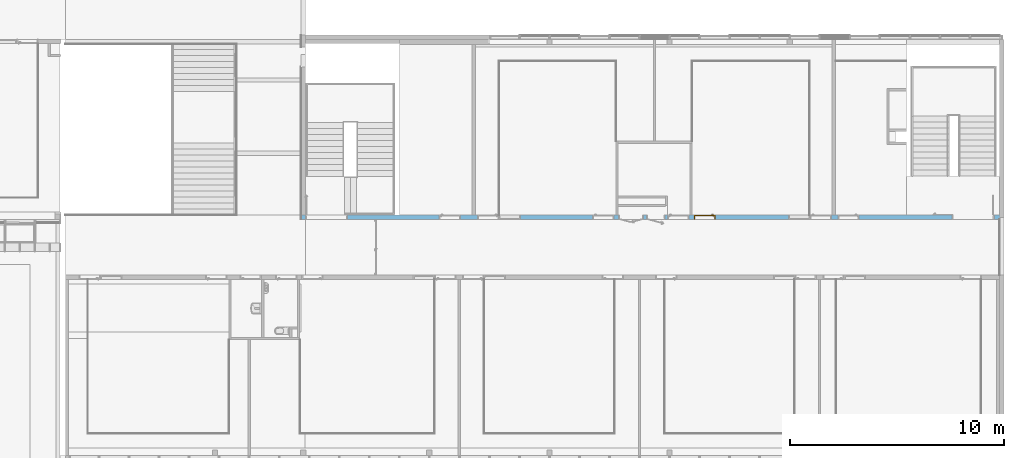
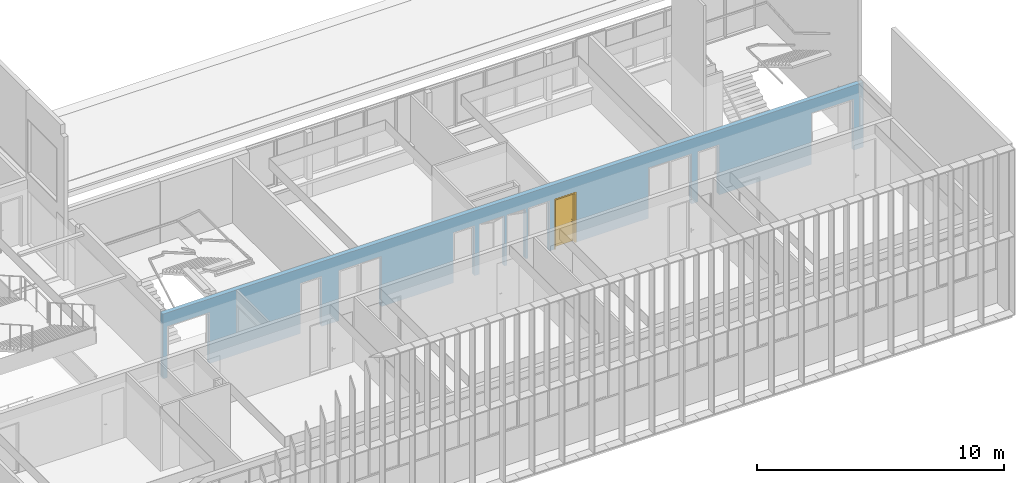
# One storey, part 82 of 106: 1 door, 13 openings, plus 1 element that does not belong to this part.
"""IFC2X3 building model written with IfcOpenShell, lengths in centimetres."""

from ifc_helpers import new_model, entity, si_unit, converted_unit, derived_unit, direction, frame, frame_2d, origin, place, context, subcontext, project, spatial, polyline, rectangle, extrude, clip, bounded_halfspace, faceted_brep, source, transform, mapped, material, material_list, layer, layer_set, layer_usage, type_object, type_shapes, element, fill, save


model = new_model("IFC2X3")

# Units and contexts
model_context = context("Model", 3, precision=0.001, world=origin(), true_north=direction((6.12303176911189e-17, 1.0)))
body_context = subcontext(model_context, "Body", "Model", "MODEL_VIEW")
ifc_project = project(units=[si_unit("LENGTHUNIT", "METRE", prefix="CENTI"), si_unit("AREAUNIT", "SQUARE_METRE"), si_unit("VOLUMEUNIT", "CUBIC_METRE"), converted_unit("PLANEANGLEUNIT", "DEGREE", entity("IfcRatioMeasure", 0.0174532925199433), si_unit("PLANEANGLEUNIT", "RADIAN"), dimensions=[0, 0, 0, 0, 0, 0, 0]), si_unit("MASSUNIT", "GRAM", prefix="KILO"), derived_unit("MASSDENSITYUNIT", [(si_unit("MASSUNIT", "GRAM", prefix="KILO"), 1), (si_unit("LENGTHUNIT", "METRE"), -3)]), si_unit("TIMEUNIT", "SECOND"), si_unit("FREQUENCYUNIT", "HERTZ"), si_unit("THERMODYNAMICTEMPERATUREUNIT", "DEGREE_CELSIUS"), derived_unit("THERMALTRANSMITTANCEUNIT", [(si_unit("MASSUNIT", "GRAM", prefix="KILO"), 1), (si_unit("THERMODYNAMICTEMPERATUREUNIT", "KELVIN"), -1), (si_unit("TIMEUNIT", "SECOND"), -3)]), derived_unit("VOLUMETRICFLOWRATEUNIT", [(si_unit("LENGTHUNIT", "METRE"), 3), (si_unit("TIMEUNIT", "SECOND"), -1)]), si_unit("ELECTRICCURRENTUNIT", "AMPERE"), si_unit("ELECTRICVOLTAGEUNIT", "VOLT"), si_unit("POWERUNIT", "WATT"), si_unit("FORCEUNIT", "NEWTON", prefix="KILO"), si_unit("ILLUMINANCEUNIT", "LUX"), si_unit("LUMINOUSFLUXUNIT", "LUMEN"), si_unit("LUMINOUSINTENSITYUNIT", "CANDELA"), derived_unit("USERDEFINED", [(si_unit("MASSUNIT", "GRAM", prefix="KILO"), -1), (si_unit("LENGTHUNIT", "METRE"), -2), (si_unit("TIMEUNIT", "SECOND"), 3), (si_unit("LUMINOUSFLUXUNIT", "LUMEN"), 1)]), derived_unit("LINEARVELOCITYUNIT", [(si_unit("LENGTHUNIT", "METRE"), 1), (si_unit("TIMEUNIT", "SECOND"), -1)]), si_unit("PRESSUREUNIT", "PASCAL"), derived_unit("USERDEFINED", [(si_unit("LENGTHUNIT", "METRE"), -2), (si_unit("MASSUNIT", "GRAM", prefix="KILO"), 1), (si_unit("TIMEUNIT", "SECOND"), -2)])], contexts=[model_context])

# Site, building, storey
site_placement = place(None, frame((-2781.94577612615, 7442.24238424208, 0.0)))
site = spatial("IfcSite", under=ifc_project, at=site_placement, Name="Default", CompositionType="ELEMENT")
building_placement = place(site_placement, origin())
building = spatial("IfcBuilding", under=site, at=building_placement, CompositionType="ELEMENT")
storey_placement = place(building_placement, frame((0.0, 0.0, 422.0)))
storey = spatial("IfcBuildingStorey", under=building, at=storey_placement, Name="Toiture - Cuisine", CompositionType="ELEMENT", Elevation=421.999999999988)

# Wall, openings, door
ifc_material_1 = material(Name="01 - Maçonnerie")
ifc_layer = layer(ifc_material_1, 20.0)
ifc_layer_set = layer_set([ifc_layer], Name="Mur de base:04 - Structure - béton - 20cm")
ifc_layer_usage = layer_usage(ifc_layer_set, "AXIS2", "NEGATIVE", 10.0)
wall_type = type_object("IfcWallType", Name="Mur de base:04 - Structure - béton - 20cm", PredefinedType="STANDARD", material=ifc_layer_set)
wall_placement = place(building_placement, frame((-3667.99987968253, -1920.07903364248, 422.0)))
wall = element("IfcWallStandardCase", 1, at=wall_placement, inside=storey, type_object=wall_type, material=ifc_layer_usage, Name="Mur de base:04 - Structure - béton - 20cm", ObjectType="Mur de base:04 - Structure - béton - 20cm", context=body_context, shape_type="Clipping", body=[
    clip(clip(extrude(rectangle(XDim=3277.99999684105, YDim=19.9999999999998, at=frame_2d((1638.99999842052, 6.21724893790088e-14), x_axis=(-1.0, 0.0))), origin(), (0.0, 0.0, 1.0), 321.0), bounded_halfspace(frame((0.0, -10.0, 321.0), z_axis=(0.0, 0.0, -1.0), x_axis=(0.0, 1.0, 0.0)), True, frame((0.0, -10.0, 321.0)), polyline([(0.0, 0.0), (20.0, 0.0), (20.0, 20.0), (0.0, 20.0), (0.0, 0.0)]))), bounded_halfspace(frame((458.699996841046, -10.0, 321.0), z_axis=(0.0, 0.0, -1.0), x_axis=(0.0, 1.0, 0.0)), True, frame((458.699996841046, -10.0, 321.0)), polyline([(0.0, 0.0), (2797.3, 0.0), (2799.29999999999, 0.0), (2799.29999999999, 10.0), (2799.29999999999, 20.0), (2034.0, 20.0), (2018.0, 20.0), (1914.0, 20.0), (1912.0, 20.0), (1363.8, 20.0), (1353.8, 20.0), (1249.8, 20.0), (1239.8, 20.0), (1149.8, 20.0), (1139.8, 20.0), (1019.8, 20.0), (1009.8, 20.0), (466.0, 20.0), (464.0, 20.0), (0.0, 20.0), (0.0, 0.0)]))),
])
opening_1_placement = place(wall_placement, frame((2502.69999684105, -10.0, 0.0)))
element("IfcOpeningElement", 2, at=opening_1_placement, cuts=wall, Name="Int. Simple:PP simple (0.93m x 2.50m):1", ObjectType="Opening", context=body_context, shape_type="SweptSolid", body=[
    extrude(rectangle(XDim=248.500000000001, YDim=99.9999999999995, at=frame_2d((124.250000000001, 49.9999999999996), x_axis=(1.0, 0.0))), frame((0.0, 0.0, 0.0), z_axis=(0.0, 1.0, 0.0), x_axis=(0.0, 0.0, 1.0)), (0.0, 0.0, 1.0), 20.0),
])
opening_2_placement = place(wall_placement, frame((2372.69999684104, -10.0, 0.0)))
element("IfcOpeningElement", 3, at=opening_2_placement, cuts=wall, Name="Int. Simple:PV (0.93m x 2.50m):1", ObjectType="Opening", context=body_context, shape_type="SweptSolid", body=[
    extrude(rectangle(XDim=248.500000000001, YDim=99.9999999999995, at=frame_2d((124.250000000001, 49.9999999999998), x_axis=(1.0, 0.0))), frame((0.0, 0.0, 0.0), z_axis=(0.0, 1.0, 0.0), x_axis=(0.0, 0.0, 1.0)), (0.0, 0.0, 1.0), 20.0),
])
opening_3_placement = place(wall_placement, frame((1832.49999684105, -10.0, 0.0)))
opening_3 = element("IfcOpeningElement", 4, at=opening_3_placement, cuts=wall, Name="Int. Simple:PV (0.93m x 2.50m):1", ObjectType="Opening", context=body_context, shape_type="SweptSolid", body=[
    extrude(rectangle(XDim=248.500000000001, YDim=99.9999999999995, at=frame_2d((124.250000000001, 49.9999999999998), x_axis=(1.0, 0.0))), frame((0.0, 0.0, 0.0), z_axis=(0.0, 1.0, 0.0), x_axis=(0.0, 0.0, 1.0)), (0.0, 0.0, 1.0), 20.0),
])
opening_4_placement = place(wall_placement, frame((1708.49999684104, -10.0, 0.0)))
element("IfcOpeningElement", 5, at=opening_4_placement, cuts=wall, Name="Int. Simple:PP simple (0.93m x 2.50m):1", ObjectType="Opening", context=body_context, shape_type="SweptSolid", body=[
    extrude(rectangle(XDim=248.500000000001, YDim=99.9999999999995, at=frame_2d((124.250000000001, 49.9999999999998), x_axis=(1.0, 0.0))), frame((0.0, 0.0, 0.0), z_axis=(0.0, 1.0, 0.0), x_axis=(0.0, 0.0, 1.0)), (0.0, 0.0, 1.0), 20.0),
])
opening_5_placement = place(wall_placement, frame((1358.49999684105, -10.0, 0.0)))
element("IfcOpeningElement", 6, at=opening_5_placement, cuts=wall, Name="Int. Simple:PV (0.93m x 2.50m):1", ObjectType="Opening", context=body_context, shape_type="SweptSolid", body=[
    extrude(rectangle(XDim=248.500000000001, YDim=99.9999999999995, at=frame_2d((124.250000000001, 49.9999999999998), x_axis=(1.0, 0.0))), frame((0.0, 0.0, 0.0), z_axis=(0.0, 1.0, 0.0), x_axis=(0.0, 0.0, 1.0)), (0.0, 0.0, 1.0), 20.0),
])
opening_6_placement = place(wall_placement, frame((822.699996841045, -10.0, 0.0)))
element("IfcOpeningElement", 7, at=opening_6_placement, cuts=wall, Name="Int. Simple:PV (0.93m x 2.50m):1", ObjectType="Opening", context=body_context, shape_type="SweptSolid", body=[
    extrude(rectangle(XDim=248.500000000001, YDim=99.9999999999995, at=frame_2d((124.250000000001, 49.9999999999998), x_axis=(1.0, 0.0))), frame((0.0, 0.0, 0.0), z_axis=(0.0, 1.0, 0.0), x_axis=(0.0, 0.0, 1.0)), (0.0, 0.0, 1.0), 20.0),
])
opening_7_placement = place(wall_placement, frame((642.699996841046, -10.0, 0.0)))
element("IfcOpeningElement", 8, at=opening_7_placement, cuts=wall, Name="Int. Simple:PP simple (0.93m x 2.50m):1", ObjectType="Opening", context=body_context, shape_type="SweptSolid", body=[
    extrude(rectangle(XDim=248.500000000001, YDim=99.9999999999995, at=frame_2d((124.250000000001, 49.9999999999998), x_axis=(1.0, 0.0))), frame((0.0, 0.0, 0.0), z_axis=(0.0, 1.0, 0.0), x_axis=(0.0, 0.0, 1.0)), (0.0, 0.0, 1.0), 20.0),
])
opening_8_placement = place(wall_placement, frame((2272.69999684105, -10.0, 0.0)))
element("IfcOpeningElement", 9, at=opening_8_placement, cuts=wall, Name="châssis intérieur vitré:châssis intérieur vitré (h=270) R+1:1", ObjectType="Opening", context=body_context, shape_type="SweptSolid", body=[
    extrude(rectangle(XDim=250.0, YDim=99.9999999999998, at=frame_2d((125.0, 49.9999999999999), x_axis=(1.0, 0.0))), frame((0.0, 0.0, 0.0), z_axis=(0.0, 1.0, 0.0), x_axis=(0.0, 0.0, 1.0)), (0.0, 0.0, 1.0), 20.0),
])
opening_9_placement = place(wall_placement, frame((922.699996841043, -10.0, 0.0)))
element("IfcOpeningElement", 10, at=opening_9_placement, cuts=wall, Name="châssis intérieur vitré:châssis intérieur vitré (h=270) R+1:1", ObjectType="Opening", context=body_context, shape_type="SweptSolid", body=[
    extrude(rectangle(XDim=250.0, YDim=99.9999999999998, at=frame_2d((125.0, 49.9999999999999), x_axis=(1.0, 0.0))), frame((0.0, 0.0, 0.0), z_axis=(0.0, 1.0, 0.0), x_axis=(0.0, 0.0, 1.0)), (0.0, 0.0, 1.0), 20.0),
])
opening_10_placement = place(wall_placement, frame((1697.0, 10.0, 0.0)))
element("IfcOpeningElement", 11, at=opening_10_placement, cuts=wall, Name="Int. Simple:PP Placard (0.80m x 2.50m):1", ObjectType="Opening", context=body_context, shape_type="SweptSolid", body=[
    extrude(rectangle(XDim=248.500000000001, YDim=86.9999999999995, at=frame_2d((124.250000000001, 43.4999999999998), x_axis=(1.0, 0.0))), frame((0.0, 0.0, 0.0), z_axis=(0.0, -1.0, 0.0), x_axis=(0.0, 0.0, 1.0)), (0.0, 0.0, 1.0), 20.0),
])
opening_11_placement = place(wall_placement, frame((1597.0, 10.0, 0.0)))
element("IfcOpeningElement", 12, at=opening_11_placement, cuts=wall, Name="Int. Double:PP Placard (1.10m x 2.50m):1", ObjectType="Opening", context=body_context, shape_type="SweptSolid", body=[
    extrude(rectangle(XDim=248.500000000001, YDim=117.0, at=frame_2d((124.250000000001, 58.5000000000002), x_axis=(1.0, 0.0))), frame((0.0, 0.0, 0.0), z_axis=(0.0, -1.0, 0.0), x_axis=(0.0, 0.0, 1.0)), (0.0, 0.0, 1.0), 20.0),
])
opening_12_placement = place(wall_placement, frame((3035.69999684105, -10.0, 0.0)))
element("IfcOpeningElement", 13, at=opening_12_placement, cuts=wall, Name="Int. Double:PP (1.90m x 2.50m):1", ObjectType="Opening", context=body_context, shape_type="SweptSolid", body=[
    extrude(rectangle(XDim=253.500000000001, YDim=197.0, at=frame_2d((126.750000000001, 98.5000000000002), x_axis=(1.0, 0.0))), frame((0.0, 0.0, 0.0), z_axis=(0.0, 1.0, 0.0), x_axis=(0.0, 0.0, 1.0)), (0.0, 0.0, 1.0), 20.0),
])
opening_13_placement = place(wall_placement, frame((20.0, -10.0, 0.0)))
element("IfcOpeningElement", 14, at=opening_13_placement, cuts=wall, Name="Int. Double:PP (1.90m x 2.50m):1", ObjectType="Opening", context=body_context, shape_type="SweptSolid", body=[
    extrude(rectangle(XDim=253.500000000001, YDim=197.0, at=frame_2d((126.750000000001, 98.5), x_axis=(1.0, 0.0))), frame((0.0, 0.0, 0.0), z_axis=(0.0, 1.0, 0.0), x_axis=(0.0, 0.0, 1.0)), (0.0, 0.0, 1.0), 20.0),
])
ifc_material_2 = material(Name="Finition Peinture - Blanc satiné")
ifc_material_3 = material(Name="Bois - Panneau de porte")
ifc_material_4 = material(Name="Bois - Cadre de porte")
ifc_material_list_1 = material_list([ifc_material_2, ifc_material_3, ifc_material_4])
ifc_material_list_2 = material_list([ifc_material_2, ifc_material_3, ifc_material_4])
door_style = type_object("IfcDoorStyle", Name="PV (0.93m x 2.50m)", ConstructionType="NOTDEFINED", OperationType="SINGLE_SWING_LEFT", ParameterTakesPrecedence=False, Sizeable=False, material=ifc_material_list_2)
shared_shape = source(origin(), body_context, "Body", "Brep", [
    faceted_brep([(10.5352761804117, -0.500000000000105, 86.6003983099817), (11.5000000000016, -0.500000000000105, 87.0), (11.5000000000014, -0.500000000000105, 108.0), (10.5352761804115, -0.500000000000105, 108.399601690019), (9.50000000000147, -0.500000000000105, 108.535898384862), (8.46472381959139, -0.500000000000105, 108.399601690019), (7.50000000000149, -0.500000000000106, 108.0), (7.50000000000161, -0.500000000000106, 87.0), (8.46472381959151, -0.500000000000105, 86.6003983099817), (9.50000000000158, -0.500000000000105, 86.464101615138), (10.5352761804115, 0.0, 108.399601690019), (11.5000000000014, 0.0, 108.0), (11.5000000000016, 0.0, 87.0), (10.5352761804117, 0.0, 86.6003983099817), (9.50000000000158, 0.0, 86.464101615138), (8.46472381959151, 0.0, 86.6003983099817), (7.50000000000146, 0.0, 87.0), (7.50000000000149, 0.0, 108.0), (8.46472381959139, 0.0, 108.399601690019), (9.50000000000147, 0.0, 108.535898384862)], [[[0, 1, 2, 3, 4, 5, 6, 7, 8, 9]], [[10, 11, 12, 13, 14, 15, 16, 17, 18, 19]], [[16, 15, 8, 7]], [[8, 15, 14, 9]], [[14, 13, 0, 9]], [[13, 12, 1, 0]], [[2, 1, 12, 11]], [[11, 10, 3, 2]], [[3, 10, 19, 4]], [[19, 18, 5, 4]], [[18, 17, 6, 5]], [[7, 6, 17, 16]]]),
    faceted_brep([(10.5352761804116, 4.0, 86.6003983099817), (11.5000000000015, 4.0, 87.0), (11.5000000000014, 4.0, 108.0), (10.5352761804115, 4.0, 108.399601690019), (9.50000000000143, 4.0, 108.535898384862), (8.46472381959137, 4.0, 108.399601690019), (7.50000000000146, 4.0, 108.0), (7.50000000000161, 4.0, 87.0), (8.46472381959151, 4.0, 86.6003983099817), (9.50000000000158, 4.0, 86.464101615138), (10.5352761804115, 4.49999999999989, 108.399601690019), (11.5000000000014, 4.49999999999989, 108.0), (11.5000000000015, 4.49999999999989, 87.0), (10.5352761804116, 4.49999999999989, 86.6003983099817), (9.50000000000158, 4.49999999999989, 86.464101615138), (8.46472381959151, 4.49999999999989, 86.6003983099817), (7.50000000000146, 4.49999999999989, 87.0), (7.50000000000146, 4.49999999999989, 108.0), (8.46472381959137, 4.49999999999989, 108.399601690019), (9.50000000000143, 4.49999999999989, 108.535898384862)], [[[0, 1, 2, 3, 4, 5, 6, 7, 8, 9]], [[10, 11, 12, 13, 14, 15, 16, 17, 18, 19]], [[11, 10, 3, 2]], [[3, 10, 19, 4]], [[19, 18, 5, 4]], [[18, 17, 6, 5]], [[7, 6, 17, 16]], [[16, 15, 8, 7]], [[8, 15, 14, 9]], [[14, 13, 0, 9]], [[13, 12, 1, 0]], [[2, 1, 12, 11]]]),
    faceted_brep([(9.29747013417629, -0.500000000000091, 100.778044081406), (9.70252986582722, -0.500000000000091, 100.778044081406), (10.1000000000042, -0.500000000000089, 100.699999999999), (10.1000000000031, -0.500000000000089, 99.3000000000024), (9.7025298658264, -0.500000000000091, 99.2219559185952), (9.29747013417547, -0.500000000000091, 99.221955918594), (8.8999999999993, -0.500000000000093, 99.2999999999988), (8.89999999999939, -0.500000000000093, 100.7), (8.89999999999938, -3.26509507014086, 100.7), (9.29747013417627, -3.10045754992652, 100.778044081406), (10.9023585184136, -4.70534593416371, 100.778044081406), (11.0701397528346, -4.30028620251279, 100.778044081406), (9.7025298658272, -2.93267631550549, 100.778044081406), (10.1000000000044, -2.76803879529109, 100.7), (10.1000000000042, -2.76803879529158, 99.3000000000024), (9.7025298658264, -2.93267631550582, 99.2219559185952), (11.0701397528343, -4.30028620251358, 99.2219559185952), (10.9023585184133, -4.70534593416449, 99.221955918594), (9.29747013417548, -3.10045754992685, 99.221955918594), (8.89999999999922, -3.26509507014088, 99.2999999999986), (10.7377209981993, -5.10281606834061, 100.7), (11.2347772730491, -3.90281606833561, 100.7), (11.2347772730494, -3.90281606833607, 99.3000000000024), (10.7377209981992, -5.10281606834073, 99.2999999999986), (19.5018640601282, -5.1028160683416, 99.2999999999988), (19.5018640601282, -4.70534593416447, 99.221955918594), (19.5018640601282, -4.30028620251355, 99.2219559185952), (19.5018640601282, -3.90281606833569, 99.3000000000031), (19.5018640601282, -3.90281606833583, 100.7), (19.5018640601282, -4.30028620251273, 100.778044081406), (19.5018640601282, -4.70534593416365, 100.778044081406), (19.5018640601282, -5.10281606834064, 100.699999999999), (14.7307697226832, -5.10281606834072, 100.7), (15.2860019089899, -4.5028160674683, 100.78786867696), (15.3683206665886, -3.9028160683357, 100.7), (15.3683206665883, -3.90281606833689, 99.3000000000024), (15.2860018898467, -4.50281607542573, 99.2121313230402), (14.7307700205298, -5.10281606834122, 99.2999999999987)], [[[0, 1, 2, 3, 4, 5, 6, 7]], [[8, 9, 0, 7]], [[9, 10, 11, 12, 1, 0]], [[12, 13, 2, 1]], [[3, 2, 13, 14]], [[14, 15, 4, 3]], [[15, 16, 17, 18, 5, 4]], [[18, 19, 6, 5]], [[7, 6, 19, 8]], [[20, 10, 9, 8]], [[11, 21, 13, 12]], [[14, 13, 21, 22]], [[22, 16, 15, 14]], [[17, 23, 19, 18]], [[8, 19, 23, 20]], [[24, 25, 26, 27, 28, 29, 30, 31]], [[32, 30, 33]], [[31, 30, 32]], [[10, 20, 32]], [[33, 34, 11]], [[21, 11, 34]], [[34, 29, 28]], [[30, 29, 33]], [[29, 34, 33]], [[10, 32, 33]], [[10, 33, 11]], [[22, 21, 34, 28, 27, 35]], [[35, 26, 36]], [[37, 36, 25]], [[22, 35, 16]], [[35, 27, 26]], [[24, 37, 25]], [[23, 17, 37]], [[37, 17, 36]], [[17, 16, 36]], [[16, 35, 36]], [[25, 36, 26]], [[20, 23, 37, 24, 31, 32]]]),
    faceted_brep([(9.29747013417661, 4.49999999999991, 100.778044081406), (8.89999999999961, 4.4999999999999, 100.7), (8.89999999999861, 4.4999999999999, 99.2999999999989), (9.29747013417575, 4.49999999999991, 99.221955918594), (9.70252986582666, 4.49999999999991, 99.2219559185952), (10.1000000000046, 4.49999999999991, 99.3000000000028), (10.1000000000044, 4.49999999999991, 100.7), (9.70252986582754, 4.49999999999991, 100.778044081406), (10.1000000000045, 6.7485204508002, 99.3000000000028), (10.1000000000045, 6.74852045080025, 100.7), (9.70252986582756, 6.91315797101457, 100.778044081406), (11.083890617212, 8.29451872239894, 100.778044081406), (10.916109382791, 8.69957845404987, 100.778044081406), (9.29747013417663, 7.0809392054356, 100.778044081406), (8.89999999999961, 7.24557672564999, 100.7), (8.89999999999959, 7.2455767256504, 99.2999999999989), (9.29747013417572, 7.08093920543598, 99.221955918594), (10.9161093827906, 8.69957845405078, 99.221955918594), (11.0838906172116, 8.29451872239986, 99.2219559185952), (9.70252986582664, 6.91315797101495, 99.2219559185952), (11.2485281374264, 7.89704858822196, 99.3000000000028), (11.2485281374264, 7.89704858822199, 100.7), (10.7514718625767, 9.09704858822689, 100.7), (10.7514718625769, 9.0970485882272, 99.2999999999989), (19.5045783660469, 7.89704858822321, 99.3000000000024), (19.5045783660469, 8.29451872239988, 99.2219559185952), (19.5045783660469, 8.6995784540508, 99.221955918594), (19.5045783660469, 9.09704858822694, 99.2999999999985), (19.5045783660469, 9.09704858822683, 100.7), (19.5045783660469, 8.69957845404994, 100.778044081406), (19.5045783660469, 8.29451872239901, 100.778044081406), (19.5045783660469, 7.89704858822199, 100.7), (15.3765520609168, 7.89704858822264, 99.3000000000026), (15.3765532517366, 7.89704858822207, 100.7), (15.294234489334, 8.49704858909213, 100.78786867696), (14.7445205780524, 9.09704858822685, 100.7), (14.7445204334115, 9.09704858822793, 99.2999999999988), (15.2942345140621, 8.49704858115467, 99.2121313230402)], [[[0, 1, 2, 3, 4, 5, 6, 7]], [[6, 5, 8, 9]], [[9, 10, 7, 6]], [[10, 11, 12, 13, 0, 7]], [[13, 14, 1, 0]], [[2, 1, 14, 15]], [[15, 16, 3, 2]], [[16, 17, 18, 19, 4, 3]], [[19, 8, 5, 4]], [[9, 8, 20, 21]], [[21, 11, 10, 9]], [[12, 22, 14, 13]], [[15, 14, 22, 23]], [[23, 17, 16, 15]], [[18, 20, 8, 19]], [[24, 25, 26, 27, 28, 29, 30, 31]], [[21, 20, 32, 24, 31, 33]], [[33, 30, 34]], [[35, 34, 29]], [[21, 33, 11]], [[33, 31, 30]], [[28, 35, 29]], [[22, 12, 35]], [[35, 12, 34]], [[12, 11, 34]], [[11, 33, 34]], [[29, 34, 30]], [[22, 35, 28, 27, 36, 23]], [[36, 26, 37]], [[27, 26, 36]], [[17, 23, 36]], [[37, 32, 18]], [[20, 18, 32]], [[32, 25, 24]], [[26, 25, 37]], [[25, 32, 37]], [[17, 36, 37]], [[17, 37, 18]]]),
    faceted_brep([(3.50000000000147, 4.0, 245.0), (96.5000000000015, 4.0, 245.0), (96.5000000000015, 4.0, 0.0), (3.50000000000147, 4.0, 0.0), (3.50000000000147, 0.0, 245.0), (3.50000000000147, 0.0, 0.0), (96.5000000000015, 0.0, 0.0), (96.5000000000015, 0.0, 245.0)], [[[0, 1, 2, 3]], [[4, 5, 6, 7]], [[1, 0, 4, 7]], [[2, 1, 7, 6]], [[3, 2, 6, 5]], [[0, 3, 5, 4]]]),
    faceted_brep([(0.0, 20.0, 0.0), (-1.50000000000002, 20.0, 0.0), (-1.50000000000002, 20.5000000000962, 0.0), (5.0, 20.5000000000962, 0.0), (5.0, 4.0, 0.0), (3.50000000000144, 4.0, 0.0), (3.50000000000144, -0.500000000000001, 0.0), (-1.50000000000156, -0.500000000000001, 0.0), (-1.50000000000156, 0.0, 0.0), (0.0, 0.0, 0.0), (0.0, 20.0, 248.500000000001), (100.0, 20.0, 248.500000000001), (100.0, 20.0, 0.0), (101.5, 20.0, 0.0), (101.5, 20.0, 250.0), (-1.50000000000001, 20.0, 250.0), (-1.50000000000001, 20.5000000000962, 250.0), (101.5, 20.5000000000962, 250.0), (101.5, 20.5000000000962, 0.0), (95.0, 20.5000000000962, 0.0), (95.0, 20.5000000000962, 243.5), (5.0, 20.5000000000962, 243.5), (5.0, 4.0, 243.5), (95.0, 4.0, 243.5), (95.0, 4.0, 0.0), (96.499999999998, 4.0, 0.0), (96.499999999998, 4.0, 245.0), (3.50000000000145, 4.0, 245.0), (3.50000000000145, -0.500000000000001, 245.0), (96.499999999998, -0.500000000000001, 245.0), (96.499999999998, -0.500000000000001, 0.0), (101.500000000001, -0.500000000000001, 0.0), (101.500000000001, -0.500000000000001, 250.0), (-1.50000000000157, -0.500000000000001, 250.0), (-1.50000000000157, 0.0, 250.0), (101.500000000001, 0.0, 250.0), (101.500000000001, 0.0, 0.0), (100.0, 0.0, 0.0), (100.0, 0.0, 248.500000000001), (0.0, 0.0, 248.500000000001)], [[[0, 1, 2, 3, 4, 5, 6, 7, 8, 9]], [[1, 0, 10, 11, 12, 13, 14, 15]], [[2, 1, 15, 16]], [[3, 2, 16, 17, 18, 19, 20, 21]], [[3, 21, 22, 4]], [[5, 4, 22, 23, 24, 25, 26, 27]], [[5, 27, 28, 6]], [[7, 6, 28, 29, 30, 31, 32, 33]], [[8, 7, 33, 34]], [[9, 8, 34, 35, 36, 37, 38, 39]], [[0, 9, 39, 10]], [[11, 38, 37, 12]], [[12, 37, 36, 31, 30, 25, 24, 19, 18, 13]], [[17, 14, 13, 18]], [[23, 20, 19, 24]], [[29, 26, 25, 30]], [[35, 32, 31, 36]], [[16, 15, 14, 17]], [[22, 21, 20, 23]], [[28, 27, 26, 29]], [[34, 33, 32, 35]], [[10, 39, 38, 11]]]),
])
type_shapes(door_style, [shared_shape])
door_placement = place(opening_3_placement, frame((100.0, 20.0, 0.0), z_axis=(0.0, 0.0, 1.0), x_axis=(-1.0, 0.0, 0.0)))
door = element("IfcDoor", 15, at=door_placement, inside=storey, type_object=door_style, material=ifc_material_list_1, Name="Int. Simple:PV (0.93m x 2.50m)", ObjectType="Int. Simple:PV (0.93m x 2.50m)", OverallHeight=248.500000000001, OverallWidth=99.9999999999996, context=body_context, shape_type="MappedRepresentation", body=[
    mapped(shared_shape, transform((0.0, 0.0, 0.0), scale=1.0)),
])
fill(opening_3, door)

save(model, "model.ifc")
